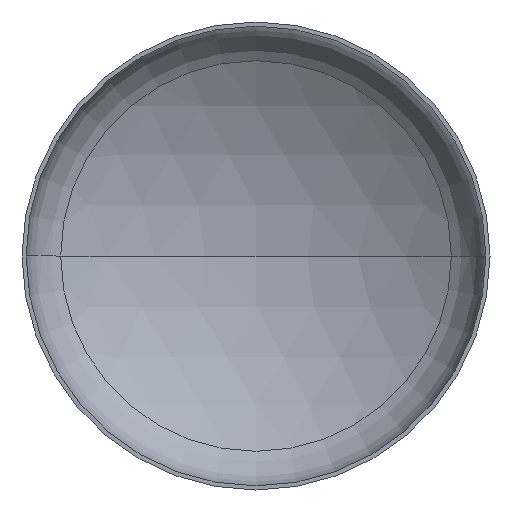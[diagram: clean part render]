
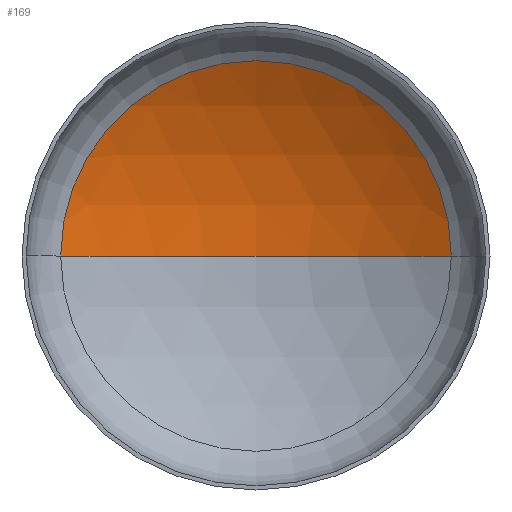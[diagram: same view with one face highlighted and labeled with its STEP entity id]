
A CAD part, front view. The second image highlights one B-rep face of the part: STEP entity #169.
In plain terms, the highlighted spherical face has radius 2880 mm.
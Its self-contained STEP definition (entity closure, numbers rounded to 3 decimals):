
#5 = AXIS2_PLACEMENT_3D ( 'NONE', #277, #138, #303 ) ;
#9 = AXIS2_PLACEMENT_3D ( 'NONE', #17, #276, #136 ) ;
#17 = CARTESIAN_POINT ( 'NONE',  ( 0., -1883.496, 0. ) ) ;
#56 = AXIS2_PLACEMENT_3D ( 'NONE', #363, #241, #225 ) ;
#63 = ORIENTED_EDGE ( 'NONE', *, *, #351, .F. ) ;
#71 = VERTEX_POINT ( 'NONE', #281 ) ;
#73 = ORIENTED_EDGE ( 'NONE', *, *, #374, .T. ) ;
#79 = VERTEX_POINT ( 'NONE', #196 ) ;
#100 = EDGE_LOOP ( 'NONE', ( #63, #114, #73 ) ) ;
#114 = ORIENTED_EDGE ( 'NONE', *, *, #364, .T. ) ;
#127 = FACE_OUTER_BOUND ( 'NONE', #100, .T. ) ;
#134 = SPHERICAL_SURFACE ( 'NONE', #56, 2880. ) ;
#136 = DIRECTION ( 'NONE',  ( 1., 0., 0. ) ) ;
#138 = DIRECTION ( 'NONE',  ( 0., 0., -1. ) ) ;
#169 = ADVANCED_FACE ( 'NONE', ( #127 ), #134, .F. ) ;
#182 = CARTESIAN_POINT ( 'NONE',  ( 0., 573.48, 0. ) ) ;
#196 = CARTESIAN_POINT ( 'NONE',  ( 1502.555, 573.48, 0. ) ) ;
#198 = CIRCLE ( 'NONE', #5, 2880. ) ;
#211 = DIRECTION ( 'NONE',  ( 1., 0., 0. ) ) ;
#225 = DIRECTION ( 'NONE',  ( -1., 0., 0. ) ) ;
#228 = AXIS2_PLACEMENT_3D ( 'NONE', #182, #353, #211 ) ;
#241 = DIRECTION ( 'NONE',  ( 0., 0., -1. ) ) ;
#259 = CIRCLE ( 'NONE', #228, 1502.555 ) ;
#276 = DIRECTION ( 'NONE',  ( 0., 0., 1. ) ) ;
#277 = CARTESIAN_POINT ( 'NONE',  ( 0., -1883.496, 0. ) ) ;
#281 = CARTESIAN_POINT ( 'NONE',  ( 0., 996.504, 0. ) ) ;
#303 = DIRECTION ( 'NONE',  ( -1., 0., 0. ) ) ;
#340 = VERTEX_POINT ( 'NONE', #369 ) ;
#351 = EDGE_CURVE ( 'NONE', #71, #340, #388, .T. ) ;
#353 = DIRECTION ( 'NONE',  ( 0., -1., 0. ) ) ;
#363 = CARTESIAN_POINT ( 'NONE',  ( 0., -1883.496, 0. ) ) ;
#364 = EDGE_CURVE ( 'NONE', #71, #79, #198, .T. ) ;
#369 = CARTESIAN_POINT ( 'NONE',  ( -1502.555, 573.48, 0. ) ) ;
#374 = EDGE_CURVE ( 'NONE', #79, #340, #259, .T. ) ;
#388 = CIRCLE ( 'NONE', #9, 2880. ) ;
